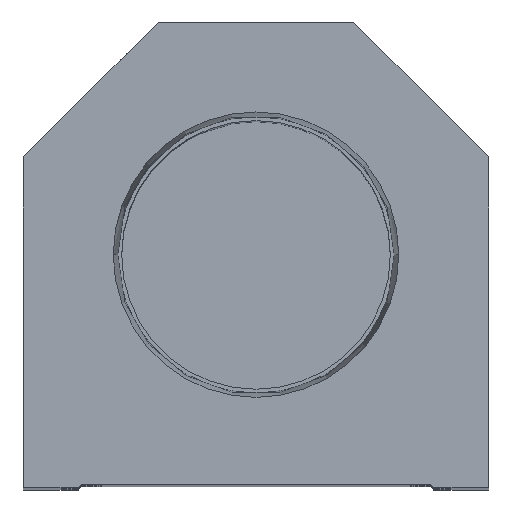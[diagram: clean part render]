
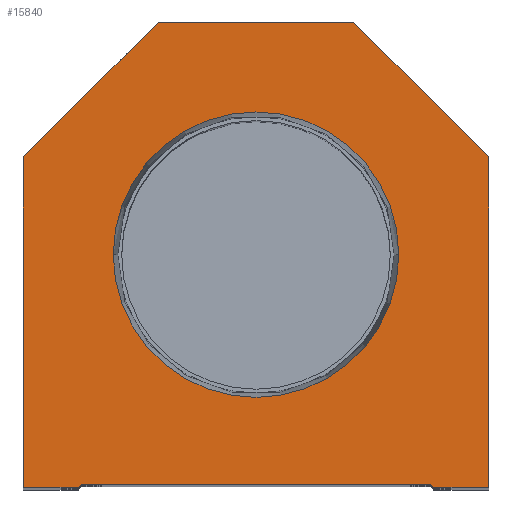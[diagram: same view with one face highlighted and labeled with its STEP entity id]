
A CAD part, top view. The second image highlights one B-rep face of the part: STEP entity #15840.
In plain terms, the highlighted planar face has unit normal (0, 0, 1).
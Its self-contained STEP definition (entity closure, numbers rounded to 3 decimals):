
#126 = ORIENTED_EDGE ( 'NONE', *, *, #1391, .T. ) ;
#308 = DIRECTION ( 'NONE',  ( 0.707, 0.707, 0. ) ) ;
#330 = EDGE_LOOP ( 'NONE', ( #7833, #13188, #5934, #10534, #126, #19747, #6493, #11938, #9824, #18509 ) ) ;
#361 = LINE ( 'NONE', #1759, #13713 ) ;
#477 = EDGE_LOOP ( 'NONE', ( #5082, #12914 ) ) ;
#689 = CIRCLE ( 'NONE', #6096, 23.374 ) ;
#837 = CARTESIAN_POINT ( 'NONE',  ( 0., 38.1, 0. ) ) ;
#988 = LINE ( 'NONE', #8505, #16223 ) ;
#1088 = VECTOR ( 'NONE', #11899, 1000. ) ;
#1116 = FACE_BOUND ( 'NONE', #477, .T. ) ;
#1372 = DIRECTION ( 'NONE',  ( 1., 0., 0. ) ) ;
#1391 = EDGE_CURVE ( 'NONE', #9620, #1400, #361, .T. ) ;
#1400 = VERTEX_POINT ( 'NONE', #12538 ) ;
#1416 = DIRECTION ( 'NONE',  ( 1., 0., 0. ) ) ;
#1651 = VERTEX_POINT ( 'NONE', #8795 ) ;
#1730 = CARTESIAN_POINT ( 'NONE',  ( -38.1, 54.1, 0. ) ) ;
#1759 = CARTESIAN_POINT ( 'NONE',  ( 28.6, 0., 0. ) ) ;
#2530 = LINE ( 'NONE', #8625, #10350 ) ;
#2539 = PLANE ( 'NONE',  #10161 ) ;
#2894 = DIRECTION ( 'NONE',  ( 0., 0., 1. ) ) ;
#3358 = CARTESIAN_POINT ( 'NONE',  ( -38.1, 0., 0. ) ) ;
#3653 = VERTEX_POINT ( 'NONE', #8618 ) ;
#3659 = CARTESIAN_POINT ( 'NONE',  ( 38.1, 54.1, 0. ) ) ;
#3726 = VERTEX_POINT ( 'NONE', #4029 ) ;
#4029 = CARTESIAN_POINT ( 'NONE',  ( -23.374, 38.1, 0. ) ) ;
#4151 = CARTESIAN_POINT ( 'NONE',  ( 29.1, 0., 0. ) ) ;
#4302 = EDGE_CURVE ( 'NONE', #8242, #3726, #689, .T. ) ;
#4326 = CARTESIAN_POINT ( 'NONE',  ( -28.6, 0.5, 0. ) ) ;
#4830 = LINE ( 'NONE', #3358, #16061 ) ;
#5039 = EDGE_CURVE ( 'NONE', #17449, #6058, #15211, .T. ) ;
#5082 = ORIENTED_EDGE ( 'NONE', *, *, #4302, .F. ) ;
#5182 = VECTOR ( 'NONE', #6434, 1000. ) ;
#5603 = CIRCLE ( 'NONE', #18123, 23.374 ) ;
#5934 = ORIENTED_EDGE ( 'NONE', *, *, #16181, .T. ) ;
#6005 = DIRECTION ( 'NONE',  ( -0.707, -0.707, 0. ) ) ;
#6058 = VERTEX_POINT ( 'NONE', #4326 ) ;
#6096 = AXIS2_PLACEMENT_3D ( 'NONE', #837, #19006, #12714 ) ;
#6434 = DIRECTION ( 'NONE',  ( -0.707, 0.707, 0. ) ) ;
#6493 = ORIENTED_EDGE ( 'NONE', *, *, #9549, .T. ) ;
#7209 = LINE ( 'NONE', #13213, #15588 ) ;
#7699 = EDGE_CURVE ( 'NONE', #3726, #8242, #5603, .T. ) ;
#7728 = VECTOR ( 'NONE', #308, 1000. ) ;
#7833 = ORIENTED_EDGE ( 'NONE', *, *, #19699, .T. ) ;
#8242 = VERTEX_POINT ( 'NONE', #13382 ) ;
#8505 = CARTESIAN_POINT ( 'NONE',  ( 14.55, 14.55, 0. ) ) ;
#8618 = CARTESIAN_POINT ( 'NONE',  ( -38.1, 54.1, 0. ) ) ;
#8625 = CARTESIAN_POINT ( 'NONE',  ( 38.1, 0., 0. ) ) ;
#8631 = CARTESIAN_POINT ( 'NONE',  ( 0., 0., 0. ) ) ;
#8718 = CARTESIAN_POINT ( 'NONE',  ( -38.1, 0., 0. ) ) ;
#8795 = CARTESIAN_POINT ( 'NONE',  ( 16., 76.2, 0. ) ) ;
#9341 = EDGE_CURVE ( 'NONE', #3653, #18710, #4830, .T. ) ;
#9549 = EDGE_CURVE ( 'NONE', #12357, #1651, #18715, .T. ) ;
#9620 = VERTEX_POINT ( 'NONE', #4151 ) ;
#9824 = ORIENTED_EDGE ( 'NONE', *, *, #10457, .T. ) ;
#10161 = AXIS2_PLACEMENT_3D ( 'NONE', #8631, #18070, #1416 ) ;
#10350 = VECTOR ( 'NONE', #17574, 1000. ) ;
#10457 = EDGE_CURVE ( 'NONE', #18255, #3653, #11435, .T. ) ;
#10534 = ORIENTED_EDGE ( 'NONE', *, *, #18079, .T. ) ;
#10707 = EDGE_CURVE ( 'NONE', #1400, #12357, #2530, .T. ) ;
#11255 = CARTESIAN_POINT ( 'NONE',  ( -14.55, 14.55, 0. ) ) ;
#11435 = LINE ( 'NONE', #1730, #17086 ) ;
#11482 = CARTESIAN_POINT ( 'NONE',  ( -29.1, 0., 0. ) ) ;
#11484 = DIRECTION ( 'NONE',  ( 0.707, -0.707, 0. ) ) ;
#11899 = DIRECTION ( 'NONE',  ( 1., 0., 0. ) ) ;
#11938 = ORIENTED_EDGE ( 'NONE', *, *, #14259, .T. ) ;
#12155 = DIRECTION ( 'NONE',  ( 1., 0., 0. ) ) ;
#12357 = VERTEX_POINT ( 'NONE', #16923 ) ;
#12442 = DIRECTION ( 'NONE',  ( 1., 0., 0. ) ) ;
#12538 = CARTESIAN_POINT ( 'NONE',  ( 38.1, 0., 0. ) ) ;
#12714 = DIRECTION ( 'NONE',  ( 1., 0., 0. ) ) ;
#12809 = VERTEX_POINT ( 'NONE', #15832 ) ;
#12914 = ORIENTED_EDGE ( 'NONE', *, *, #7699, .F. ) ;
#13188 = ORIENTED_EDGE ( 'NONE', *, *, #5039, .T. ) ;
#13213 = CARTESIAN_POINT ( 'NONE',  ( 16., 76.2, 0. ) ) ;
#13382 = CARTESIAN_POINT ( 'NONE',  ( 23.374, 38.1, 0. ) ) ;
#13713 = VECTOR ( 'NONE', #12442, 1000. ) ;
#14259 = EDGE_CURVE ( 'NONE', #1651, #18255, #7209, .T. ) ;
#14818 = CARTESIAN_POINT ( 'NONE',  ( -28.6, 0., 0. ) ) ;
#14922 = DIRECTION ( 'NONE',  ( -1., 0., 0. ) ) ;
#15211 = LINE ( 'NONE', #11255, #7728 ) ;
#15338 = DIRECTION ( 'NONE',  ( 0., -1., 0. ) ) ;
#15588 = VECTOR ( 'NONE', #14922, 1000. ) ;
#15832 = CARTESIAN_POINT ( 'NONE',  ( 28.6, 0.5, 0. ) ) ;
#15840 = ADVANCED_FACE ( 'NONE', ( #1116, #19611 ), #2539, .T. ) ;
#15882 = CARTESIAN_POINT ( 'NONE',  ( -16., 76.2, 0. ) ) ;
#16061 = VECTOR ( 'NONE', #15338, 1000. ) ;
#16181 = EDGE_CURVE ( 'NONE', #6058, #12809, #16806, .T. ) ;
#16223 = VECTOR ( 'NONE', #11484, 1000. ) ;
#16599 = CARTESIAN_POINT ( 'NONE',  ( 0., 38.1, 0. ) ) ;
#16806 = LINE ( 'NONE', #18318, #16926 ) ;
#16923 = CARTESIAN_POINT ( 'NONE',  ( 38.1, 54.1, 0. ) ) ;
#16926 = VECTOR ( 'NONE', #1372, 1000. ) ;
#17086 = VECTOR ( 'NONE', #6005, 1000. ) ;
#17449 = VERTEX_POINT ( 'NONE', #11482 ) ;
#17574 = DIRECTION ( 'NONE',  ( 0., 1., 0. ) ) ;
#18054 = LINE ( 'NONE', #14818, #1088 ) ;
#18070 = DIRECTION ( 'NONE',  ( 0., 0., 1. ) ) ;
#18079 = EDGE_CURVE ( 'NONE', #12809, #9620, #988, .T. ) ;
#18123 = AXIS2_PLACEMENT_3D ( 'NONE', #16599, #2894, #12155 ) ;
#18255 = VERTEX_POINT ( 'NONE', #15882 ) ;
#18318 = CARTESIAN_POINT ( 'NONE',  ( -28.6, 0.5, 0. ) ) ;
#18509 = ORIENTED_EDGE ( 'NONE', *, *, #9341, .T. ) ;
#18710 = VERTEX_POINT ( 'NONE', #8718 ) ;
#18715 = LINE ( 'NONE', #3659, #5182 ) ;
#19006 = DIRECTION ( 'NONE',  ( 0., 0., 1. ) ) ;
#19611 = FACE_OUTER_BOUND ( 'NONE', #330, .T. ) ;
#19699 = EDGE_CURVE ( 'NONE', #18710, #17449, #18054, .T. ) ;
#19747 = ORIENTED_EDGE ( 'NONE', *, *, #10707, .T. ) ;
